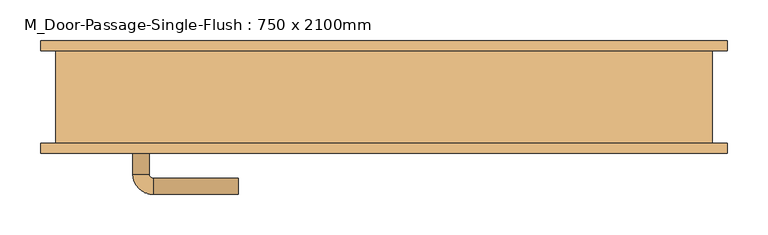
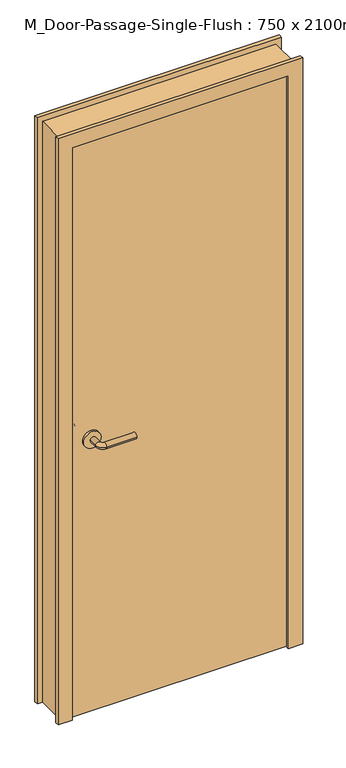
"""IFC4 building model written with IfcOpenShell, lengths in millimetres: door geometry, M_Door-Passage-Single-Flush : 750 x 2100mm."""

from ifc_helpers import new_model, si_unit, point, frame, frame_2d, origin, origin_with_axes, place, context, project, spatial, polyline, circle_curve, ellipse_curve, trimmed, segment, composite_curve, outline, extrude, faceted_brep, source, transform, mapped, element, save
from ifc_brep_helpers import plane_surface, cylinder_surface, revolved_surface, advanced_brep


def m_door_passage_single_flush_750_x_2100mm_a396414b(model_context):
    return source(origin(), model_context, "Body", "SolidModel", [
        advanced_brep(
        [(-309.990625, -10.35, 1000.0), (-289.990625, -10.35, 1000.0), (-309.990625, 19.65, 1000.0), (-289.990625, 19.65, 1000.0), (-284.990625, 24.65, 1000.0), (-284.990625, 44.65, 1000.0), (-179.990625, 44.65, 1000.0), (-179.990625, 24.65, 1000.0)],
        [
            (0, 1, circle_curve(frame((-299.990625, -10.35, 1000.0), z_axis=(0.0, -1.0, 0.0), x_axis=(1.0, 0.0, 0.0)), 10.0)),
            (1, 0, circle_curve(frame((-299.990625, -10.35, 1000.0), z_axis=(0.0, -1.0, 0.0), x_axis=(1.0, 0.0, 0.0)), 10.0)),
            (0, 2),
            (2, 3, circle_curve(frame((-299.990625, 19.65, 1000.0), z_axis=(0.0, -1.0, 0.0), x_axis=(1.0, 0.0, 0.0)), 10.0)),
            (3, 1),
            (3, 2, circle_curve(frame((-299.990625, 19.65, 1000.0), z_axis=(0.0, -1.0, 0.0), x_axis=(1.0, 0.0, 0.0)), 10.0)),
            (4, 3, circle_curve(frame((-284.990625, 19.65, 1000.0), z_axis=(0.0, 0.0, 1.0), x_axis=(-1.0, 0.0, 0.0)), 5.0)),
            (2, 5, circle_curve(frame((-284.990625, 19.65, 1000.0), z_axis=(0.0, 0.0, -1.0), x_axis=(-1.0, 0.0, 0.0)), 25.0)),
            (5, 4, circle_curve(frame((-284.990625, 34.65, 1000.0), z_axis=(-1.0, 0.0, 0.0), x_axis=(0.0, -1.0, 0.0)), 10.0)),
            (4, 5, circle_curve(frame((-284.990625, 34.65, 1000.0), z_axis=(-1.0, 0.0, 0.0), x_axis=(0.0, -1.0, 0.0)), 10.0)),
            (6, 7, circle_curve(frame((-179.990625, 34.65, 1000.0), z_axis=(1.0, 0.0, 0.0), x_axis=(0.0, -1.0, 0.0)), 10.0)),
            (7, 6, circle_curve(frame((-179.990625, 34.65, 1000.0), z_axis=(1.0, 0.0, 0.0), x_axis=(0.0, -1.0, 0.0)), 10.0)),
            (5, 6),
            (7, 4),
        ],
        [
            plane_surface(frame((-299.990625, -10.35, 1000.0), z_axis=(0.0, -1.0, 0.0), x_axis=(0.0, 0.0, 1.0))),
            cylinder_surface(frame((-299.990625, -10.35, 1000.0), z_axis=(0.0, -1.0, 0.0), x_axis=(1.0, 0.0, 0.0)), 10.0),
            revolved_surface(trimmed(ellipse_curve(frame((-299.990625, 19.65, 1000.0), z_axis=(0.0, -1.0, 0.0), x_axis=(1.0, 0.0, 0.0)), 10.0, 10.0), [point((-309.990625, 19.65, 1000.0))], [point((-289.990625, 19.65, 1000.0))], True, "CARTESIAN"), (-284.990625, 19.65, 1000.0), (0.0, 0.0, -1.0)),
            revolved_surface(trimmed(ellipse_curve(frame((-299.990625, 19.65, 1000.0), z_axis=(0.0, -1.0, 0.0), x_axis=(1.0, 0.0, 0.0)), 10.0, 10.0), [point((-289.990625, 19.65, 1000.0))], [point((-309.990625, 19.65, 1000.0))], True, "CARTESIAN"), (-284.990625, 19.65, 1000.0), (0.0, 0.0, -1.0)),
            plane_surface(frame((-179.990625, 34.65, 1000.0), z_axis=(1.0, 0.0, 0.0), x_axis=(0.0, 0.0, 1.0))),
            cylinder_surface(frame((-284.990625, 34.65, 1000.0), z_axis=(-1.0, 0.0, 0.0), x_axis=(0.0, -1.0, 0.0)), 10.0),
        ],
        [
            (0, [[1, 2]]),
            (1, [[-1, 3, 4, 5]]),
            (1, [[-2, -5, 6, -3]]),
            (2, [[7, -4, 8, 9]]),
            (3, [[-8, -6, -7, 10]]),
            (4, [[11, 12]]),
            (5, [[-9, 13, -12, 14]]),
            (5, [[-10, -14, -11, -13]]),
        ],
    ),
        extrude(outline(composite_curve([segment(trimmed(circle_curve(frame_2d((1000.0, -302.490625)), 30.0), [point((1000.0, -332.490625))], [point((1000.0, -272.490625))], False, "CARTESIAN"), True, "CONTINUOUS"), segment(trimmed(circle_curve(frame_2d((1000.0, -302.490625)), 30.0), [point((1000.0, -272.490625))], [point((1000.0, -332.490625))], False, "CARTESIAN"), True, "CONTINUOUS")], self_intersect=False)), frame((0.0, -18.35, 0.0), z_axis=(0.0, 1.0, 0.0), x_axis=(0.0, 0.0, 1.0)), (0.0, 0.0, 1.0), 8.0),
        advanced_brep(
        [(-309.990625, -71.35, 1000.0), (-289.990625, -71.35, 1000.0), (-289.990625, -101.35, 1000.0), (-309.990625, -101.35, 1000.0), (-284.990625, -106.35, 1000.0), (-284.990625, -126.35, 1000.0), (-179.990625, -126.35, 1000.0), (-179.990625, -106.35, 1000.0)],
        [
            (0, 1, circle_curve(frame((-299.990625, -71.35, 1000.0), z_axis=(0.0, 1.0, 0.0), x_axis=(1.0, 0.0, 0.0)), 10.0)),
            (1, 0, circle_curve(frame((-299.990625, -71.35, 1000.0), z_axis=(0.0, 1.0, 0.0), x_axis=(1.0, 0.0, 0.0)), 10.0)),
            (1, 2),
            (2, 3, circle_curve(frame((-299.990625, -101.35, 1000.0), z_axis=(0.0, 1.0, 0.0), x_axis=(1.0, 0.0, 0.0)), 10.0)),
            (3, 0),
            (3, 2, circle_curve(frame((-299.990625, -101.35, 1000.0), z_axis=(0.0, 1.0, 0.0), x_axis=(1.0, 0.0, 0.0)), 10.0)),
            (4, 5, circle_curve(frame((-284.990625, -116.35, 1000.0), z_axis=(-1.0, 0.0, 0.0), x_axis=(0.0, 1.0, 0.0)), 10.0)),
            (5, 3, circle_curve(frame((-284.990625, -101.35, 1000.0), z_axis=(0.0, 0.0, -1.0), x_axis=(-1.0, 0.0, 0.0)), 25.0)),
            (2, 4, circle_curve(frame((-284.990625, -101.35, 1000.0), z_axis=(0.0, 0.0, 1.0), x_axis=(-1.0, 0.0, 0.0)), 5.0)),
            (5, 4, circle_curve(frame((-284.990625, -116.35, 1000.0), z_axis=(-1.0, 0.0, 0.0), x_axis=(0.0, 1.0, 0.0)), 10.0)),
            (6, 7, circle_curve(frame((-179.990625, -116.35, 1000.0), z_axis=(1.0, 0.0, 0.0), x_axis=(0.0, 1.0, 0.0)), 10.0)),
            (7, 6, circle_curve(frame((-179.990625, -116.35, 1000.0), z_axis=(1.0, 0.0, 0.0), x_axis=(0.0, 1.0, 0.0)), 10.0)),
            (4, 7),
            (6, 5),
        ],
        [
            plane_surface(frame((-299.990625, -71.35, 1000.0), z_axis=(0.0, 1.0, 0.0), x_axis=(0.0, 0.0, 1.0))),
            cylinder_surface(frame((-299.990625, -71.35, 1000.0), z_axis=(0.0, 1.0, 0.0), x_axis=(1.0, 0.0, 0.0)), 10.0),
            revolved_surface(trimmed(ellipse_curve(frame((-299.990625, -101.35, 1000.0), z_axis=(0.0, -1.0, 0.0), x_axis=(1.0, 0.0, 0.0)), 10.0, 10.0), [point((-309.990625, -101.35, 1000.0))], [point((-289.990625, -101.35, 1000.0))], True, "CARTESIAN"), (-284.990625, -101.35, 1000.0), (0.0, 0.0, -1.0)),
            revolved_surface(trimmed(ellipse_curve(frame((-299.990625, -101.35, 1000.0), z_axis=(0.0, -1.0, 0.0), x_axis=(1.0, 0.0, 0.0)), 10.0, 10.0), [point((-289.990625, -101.35, 1000.0))], [point((-309.990625, -101.35, 1000.0))], True, "CARTESIAN"), (-284.990625, -101.35, 1000.0), (0.0, 0.0, -1.0)),
            plane_surface(frame((-179.990625, -116.35, 1000.0), z_axis=(1.0, 0.0, 0.0), x_axis=(0.0, 0.0, 1.0))),
            cylinder_surface(frame((-284.990625, -116.35, 1000.0), z_axis=(-1.0, 0.0, 0.0), x_axis=(0.0, 1.0, 0.0)), 10.0),
        ],
        [
            (0, [[1, 2]]),
            (1, [[3, 4, 5, -2]]),
            (1, [[-5, 6, -3, -1]]),
            (2, [[7, 8, -4, 9]]),
            (3, [[10, -9, -6, -8]]),
            (4, [[11, 12]]),
            (5, [[13, -11, 14, -7]]),
            (5, [[-14, -12, -13, -10]]),
        ],
    ),
        extrude(outline(composite_curve([segment(trimmed(circle_curve(frame_2d((1000.0, -302.490625)), 30.0), [point((1000.0, -332.490625))], [point((1000.0, -272.490625))], False, "CARTESIAN"), True, "CONTINUOUS"), segment(trimmed(circle_curve(frame_2d((1000.0, -302.490625)), 30.0), [point((1000.0, -272.490625))], [point((1000.0, -332.490625))], False, "CARTESIAN"), True, "CONTINUOUS")], self_intersect=False)), frame((0.0, -71.35, 0.0), z_axis=(0.0, 1.0, 0.0), x_axis=(0.0, 0.0, 1.0)), (0.0, 0.0, 1.0), 8.0),
        extrude(outline(polyline([(375.0, -18.35), (375.0, -63.35), (-375.0, -63.35), (-375.0, -18.35), (375.0, -18.35)])), origin_with_axes(), (0.0, 0.0, 1.0), 2100.0),
        faceted_brep([(375.05, -76.05, 0.0), (375.05, -13.5875, 0.0), (359.175, -13.5875, 0.0), (359.175, 24.5125, 0.0), (375.05, 24.5125, 0.0), (375.05, 63.35, 0.0), (424.05, 63.35, 0.0), (424.05, 50.65, 0.0), (405.0, 50.65, 0.0), (405.0, -63.35, 0.0), (424.05, -63.35, 0.0), (424.05, -76.05, 0.0), (424.05, -76.05, 2149.05), (-424.05, -76.05, 2149.05), (-424.05, -76.05, 0.0), (-375.05, -76.05, 0.0), (-375.05, -76.05, 2100.05), (375.05, -76.05, 2100.05), (424.05, -63.35, 2149.05), (405.0, -63.35, 2130.0), (-405.0, -63.35, 2130.0), (-405.0, -63.35, 0.0), (-424.05, -63.35, 0.0), (-424.05, -63.35, 2149.05), (405.0, 50.65, 2130.0), (424.05, 50.65, 2149.05), (-424.05, 50.65, 2149.05), (-424.05, 50.65, 0.0), (-405.0, 50.65, 0.0), (-405.0, 50.65, 2130.0), (424.05, 63.35, 2149.05), (375.05, 63.35, 2100.05), (-375.05, 63.35, 2100.05), (-375.05, 63.35, 0.0), (-424.05, 63.35, 0.0), (-424.05, 63.35, 2149.05), (375.05, 24.5125, 2100.05), (359.175, 24.5125, 2084.175), (-359.175, 24.5125, 2084.175), (-359.175, 24.5125, 0.0), (-375.05, 24.5125, 0.0), (-375.05, 24.5125, 2100.05), (359.175, -13.5875, 2084.175), (375.05, -13.5875, 2100.05), (-375.05, -13.5875, 2100.05), (-375.05, -13.5875, 0.0), (-359.175, -13.5875, 0.0), (-359.175, -13.5875, 2084.175)], [[[0, 1, 2, 3, 4, 5, 6, 7, 8, 9, 10, 11]], [[11, 12, 13, 14, 15, 16, 17, 0]], [[10, 18, 12, 11]], [[9, 19, 20, 21, 22, 23, 18, 10]], [[8, 24, 19, 9]], [[7, 25, 26, 27, 28, 29, 24, 8]], [[6, 30, 25, 7]], [[5, 31, 32, 33, 34, 35, 30, 6]], [[4, 36, 31, 5]], [[3, 37, 38, 39, 40, 41, 36, 4]], [[2, 42, 37, 3]], [[1, 43, 44, 45, 46, 47, 42, 2]], [[0, 17, 43, 1]], [[18, 23, 13, 12]], [[24, 29, 20, 19]], [[30, 35, 26, 25]], [[36, 41, 32, 31]], [[42, 47, 38, 37]], [[17, 16, 44, 43]], [[15, 14, 22, 21, 28, 27, 34, 33, 40, 39, 46, 45]], [[23, 22, 14, 13]], [[29, 28, 21, 20]], [[35, 34, 27, 26]], [[41, 40, 33, 32]], [[47, 46, 39, 38]], [[16, 15, 45, 44]]]),
    ])


if __name__ == "__main__":
    model = new_model("IFC4")
    model_context = context("Model", 3, world=origin())
    ifc_project = project(units=[si_unit("LENGTHUNIT", "METRE", prefix="MILLI")], contexts=[model_context])
    site = spatial("IfcSite", under=ifc_project)
    building = spatial("IfcBuilding", under=site)
    placement = place(None, origin())
    m_door_passage_single_flush_750_x_2100mm_shape = m_door_passage_single_flush_750_x_2100mm_a396414b(model_context)
    element("IfcDoor", 1, ObjectType="M_Door-Passage-Single-Flush : 750 x 2100mm", at=placement, inside=building, context=model_context, shape_type="MappedRepresentation", body=[
        mapped(m_door_passage_single_flush_750_x_2100mm_shape, transform((0.0, 0.0, 0.0), x_axis=(1.0, 0.0, 0.0), y_axis=(0.0, 1.0, 0.0), z_axis=(0.0, 0.0, 1.0))),
    ])
    save(model, "model.ifc")
